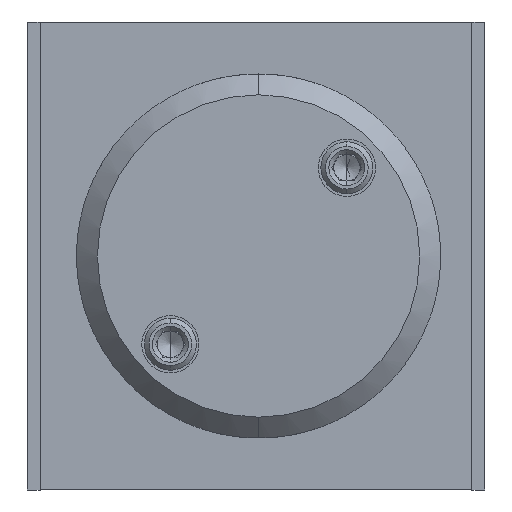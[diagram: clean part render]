
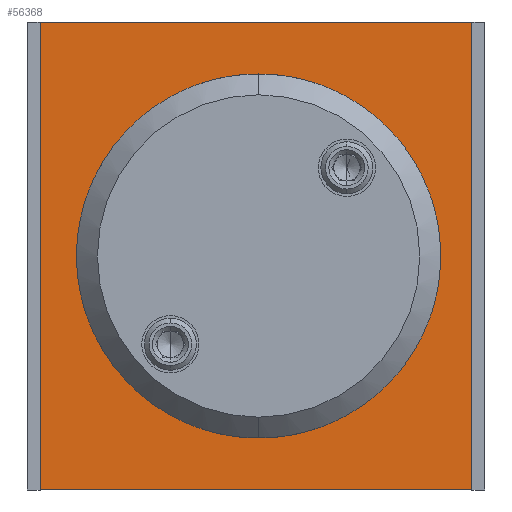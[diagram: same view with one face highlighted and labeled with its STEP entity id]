
A CAD part, left-side view. The second image highlights one B-rep face of the part: STEP entity #56368.
In plain terms, the highlighted planar face has unit normal (-1, 0, 0).
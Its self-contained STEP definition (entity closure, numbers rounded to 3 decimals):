
#189 = AXIS2_PLACEMENT_3D ( 'NONE', #33996, #5772, #38555 ) ;
#2068 = CARTESIAN_POINT ( 'NONE',  ( 0., 20.75, -22.5 ) ) ;
#2258 = CARTESIAN_POINT ( 'NONE',  ( 0., -20.75, 22.5 ) ) ;
#2564 = EDGE_CURVE ( 'NONE', #39972, #28153, #41829, .T. ) ;
#3315 = EDGE_CURVE ( 'NONE', #28153, #27989, #24836, .T. ) ;
#3800 = ORIENTED_EDGE ( 'NONE', *, *, #4874, .F. ) ;
#4121 = EDGE_CURVE ( 'NONE', #27989, #25128, #57807, .T. ) ;
#4323 = ORIENTED_EDGE ( 'NONE', *, *, #29745, .F. ) ;
#4326 = EDGE_CURVE ( 'NONE', #25128, #39972, #53691, .T. ) ;
#4401 = ORIENTED_EDGE ( 'NONE', *, *, #4326, .F. ) ;
#4639 = ORIENTED_EDGE ( 'NONE', *, *, #4121, .F. ) ;
#4859 = DIRECTION ( 'NONE',  ( 0., 0., -1. ) ) ;
#4874 = EDGE_CURVE ( 'NONE', #52334, #58302, #28537, .T. ) ;
#5105 = ORIENTED_EDGE ( 'NONE', *, *, #3315, .F. ) ;
#5205 = ORIENTED_EDGE ( 'NONE', *, *, #2564, .F. ) ;
#5772 = DIRECTION ( 'NONE',  ( -1., 0., 0. ) ) ;
#7150 = DIRECTION ( 'NONE',  ( 0., 0., -1. ) ) ;
#7309 = AXIS2_PLACEMENT_3D ( 'NONE', #2258, #35307, #7150 ) ;
#10434 = DIRECTION ( 'NONE',  ( -1., 0., 0. ) ) ;
#17403 = EDGE_LOOP ( 'NONE', ( #4401, #4639, #5105, #5205 ) ) ;
#17939 = CARTESIAN_POINT ( 'NONE',  ( 0., 20.75, 22.5 ) ) ;
#18645 = CARTESIAN_POINT ( 'NONE',  ( 0., 20.75, 22.5 ) ) ;
#21462 = EDGE_LOOP ( 'NONE', ( #3800, #4323 ) ) ;
#24780 = VECTOR ( 'NONE', #35243, 1000. ) ;
#24836 = LINE ( 'NONE', #53831, #24780 ) ;
#25128 = VERTEX_POINT ( 'NONE', #18645 ) ;
#27989 = VERTEX_POINT ( 'NONE', #53369 ) ;
#28153 = VERTEX_POINT ( 'NONE', #30755 ) ;
#28537 = CIRCLE ( 'NONE', #189, 16. ) ;
#28732 = CARTESIAN_POINT ( 'NONE',  ( 0., -16.25, 0. ) ) ;
#29745 = EDGE_CURVE ( 'NONE', #58302, #52334, #60941, .T. ) ;
#30472 = PLANE ( 'NONE',  #7309 ) ;
#30755 = CARTESIAN_POINT ( 'NONE',  ( 0., -20.75, -22.5 ) ) ;
#33996 = CARTESIAN_POINT ( 'NONE',  ( 0., -0.25, 0. ) ) ;
#35129 = DIRECTION ( 'NONE',  ( 0., 0., 1. ) ) ;
#35243 = DIRECTION ( 'NONE',  ( 0., 1., 0. ) ) ;
#35307 = DIRECTION ( 'NONE',  ( -1., 0., 0. ) ) ;
#38385 = CARTESIAN_POINT ( 'NONE',  ( 0., -0.25, 0. ) ) ;
#38555 = DIRECTION ( 'NONE',  ( 0., 1., 0. ) ) ;
#39972 = VERTEX_POINT ( 'NONE', #58683 ) ;
#41276 = FACE_OUTER_BOUND ( 'NONE', #17403, .T. ) ;
#41697 = VECTOR ( 'NONE', #4859, 1000. ) ;
#41829 = LINE ( 'NONE', #60961, #41697 ) ;
#42542 = AXIS2_PLACEMENT_3D ( 'NONE', #38385, #10434, #43115 ) ;
#43115 = DIRECTION ( 'NONE',  ( 0., 1., 0. ) ) ;
#50248 = VECTOR ( 'NONE', #60088, 1000. ) ;
#52012 = CARTESIAN_POINT ( 'NONE',  ( 0., 15.75, 0. ) ) ;
#52334 = VERTEX_POINT ( 'NONE', #52012 ) ;
#53369 = CARTESIAN_POINT ( 'NONE',  ( 0., 20.75, -22.5 ) ) ;
#53691 = LINE ( 'NONE', #17939, #50248 ) ;
#53831 = CARTESIAN_POINT ( 'NONE',  ( 0., 20.75, -22.5 ) ) ;
#55322 = FACE_BOUND ( 'NONE', #21462, .T. ) ;
#56368 = ADVANCED_FACE ( 'NONE', ( #55322, #41276 ), #30472, .T. ) ;
#56488 = VECTOR ( 'NONE', #35129, 1000. ) ;
#57807 = LINE ( 'NONE', #2068, #56488 ) ;
#58302 = VERTEX_POINT ( 'NONE', #28732 ) ;
#58683 = CARTESIAN_POINT ( 'NONE',  ( 0., -20.75, 22.5 ) ) ;
#60088 = DIRECTION ( 'NONE',  ( 0., -1., 0. ) ) ;
#60941 = CIRCLE ( 'NONE', #42542, 16. ) ;
#60961 = CARTESIAN_POINT ( 'NONE',  ( 0., -20.75, -22.5 ) ) ;
